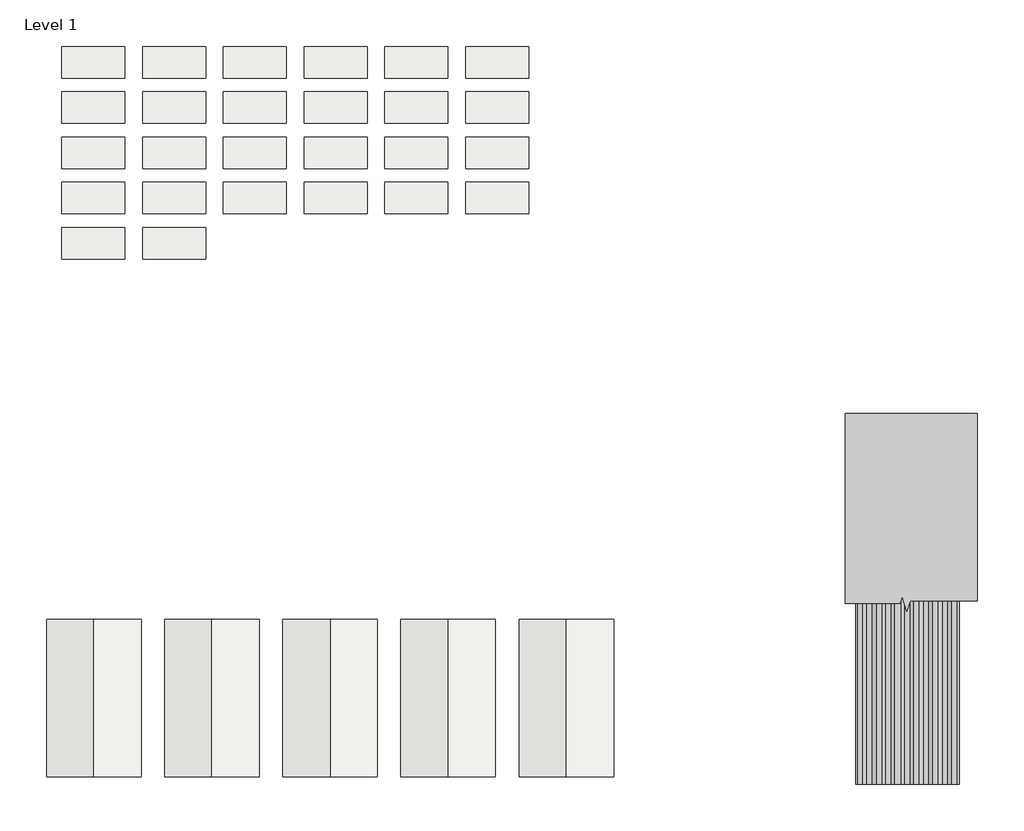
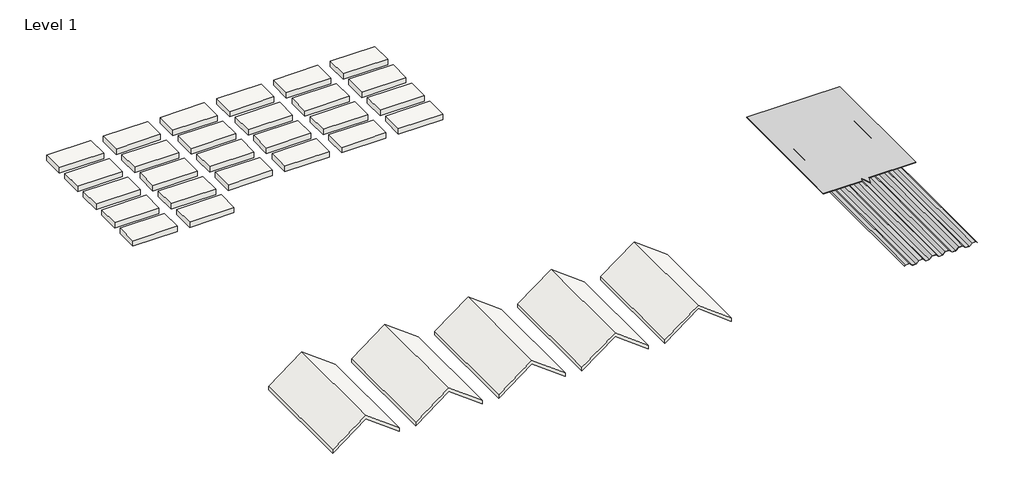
# One storey: 26 slabs, 5 roofs, 2 proxies.
"""IFC4 building model written with IfcOpenShell, lengths in millimetres."""

from ifc_helpers import new_model, si_unit, frame, origin, place, context, project, spatial, polyline, outline, extrude, transform, mapped, element, save
from components import proxy_5ac39d22, section_mask3_section_mask_eed57ca7

model = new_model("IFC4")

# Units and contexts
model_context = context("Model", 3, world=origin())
ifc_project = project(units=[si_unit("LENGTHUNIT", "METRE", prefix="MILLI")], contexts=[model_context])

# Site, building, storey
site = spatial("IfcSite", under=ifc_project)
building = spatial("IfcBuilding", under=site)
storey = spatial("IfcBuildingStorey", under=building, Name="Level 1", Elevation=0.0)

# Proxies
placement = place(None, origin())
proxy_shape = proxy_5ac39d22(model_context)
element("IfcBuildingElementProxy", 1, Name="HR-36_Panel_AEP_Span : 36\" HR-36 Panel - 18ga", ObjectType="HR-36_Panel_AEP_Span : 36\" HR-36 Panel - 18ga", at=placement, inside=storey, context=model_context, shape_type="MappedRepresentation", body=[
    mapped(proxy_shape, transform((3261.2071089, 3665.9725357, 0.0), x_axis=(1.0, 0.0, 0.0), y_axis=(0.0, 1.0, 0.0), z_axis=(0.0, 0.0, 1.0))),
])
section_mask3_section_mask_shape = section_mask3_section_mask_eed57ca7(model_context)
element("IfcBuildingElementProxy", 2, Name="Section Mask3 : Section Mask", ObjectType="Section Mask3 : Section Mask", at=placement, inside=storey, context=model_context, shape_type="MappedRepresentation", body=[
    mapped(section_mask3_section_mask_shape, transform((-4935.9331116, 1484.3755873, 0.0), x_axis=(1.0, 0.0, 0.0), y_axis=(0.0, 1.0, 0.0), z_axis=(0.0, 0.0, 1.0))),
])

# Roofs
element("IfcRoof", 3, ObjectType="36\" HR-36 Roofing - 18ga", at=placement, inside=storey, context=model_context, shape_type="SweptSolid", body=[
    extrude(outline(polyline([(47.625, -4151.1972798), (390.525, -4608.3972798), (47.625, -5065.5972798), (0.0, -5065.5972798), (342.9, -4608.3972798), (0.0, -4151.1972798), (47.625, -4151.1972798)])), frame((0.0, 433.0186306, 0.0), z_axis=(0.0, 1.0, 0.0), x_axis=(0.0, 0.0, 1.0)), (0.0, 0.0, 1.0), 1524.0),
])
element("IfcRoof", 4, ObjectType="36\" HR-36 Roofing - 20ga", at=placement, inside=storey, context=model_context, shape_type="SweptSolid", body=[
    extrude(outline(polyline([(47.625, -3008.1972798), (390.525, -3465.3972798), (47.625, -3922.5972798), (0.0, -3922.5972798), (342.9, -3465.3972798), (0.0, -3008.1972798), (47.625, -3008.1972798)])), frame((0.0, 433.0186306, 0.0), z_axis=(0.0, 1.0, 0.0), x_axis=(0.0, 0.0, 1.0)), (0.0, 0.0, 1.0), 1524.0),
])
element("IfcRoof", 5, ObjectType="36\" HR-36 Roofing - 22ga", at=placement, inside=storey, context=model_context, shape_type="SweptSolid", body=[
    extrude(outline(polyline([(47.625, -1865.1972798), (390.525, -2322.3972798), (47.625, -2779.5972798), (0.0, -2779.5972798), (342.9, -2322.3972798), (0.0, -1865.1972798), (47.625, -1865.1972798)])), frame((0.0, 433.0186306, 0.0), z_axis=(0.0, 1.0, 0.0), x_axis=(0.0, 0.0, 1.0)), (0.0, 0.0, 1.0), 1524.0),
])
element("IfcRoof", 6, ObjectType="36\" HR-36 Roofing - 24ga", at=placement, inside=storey, context=model_context, shape_type="SweptSolid", body=[
    extrude(outline(polyline([(47.625, -722.1972798), (390.525, -1179.3972798), (47.625, -1636.5972798), (0.0, -1636.5972798), (342.9, -1179.3972798), (0.0, -722.1972798), (47.625, -722.1972798)])), frame((0.0, 433.0186306, 0.0), z_axis=(0.0, 1.0, 0.0), x_axis=(0.0, 0.0, 1.0)), (0.0, 0.0, 1.0), 1524.0),
])
element("IfcRoof", 7, ObjectType="36\" HR-36 Roofing - 26ga", at=placement, inside=storey, context=model_context, shape_type="SweptSolid", body=[
    extrude(outline(polyline([(47.625, 420.8027202), (390.525, -36.3972798), (47.625, -493.5972798), (0.0, -493.5972798), (342.9, -36.3972798), (0.0, 420.8027202), (47.625, 420.8027202)])), frame((0.0, 433.0186306, 0.0), z_axis=(0.0, 1.0, 0.0), x_axis=(0.0, 0.0, 1.0)), (0.0, 0.0, 1.0), 1524.0),
])

# Slabs
element("IfcSlab", 8, ObjectType="AEP Span Material Sample", at=placement, inside=storey, context=model_context, shape_type="SweptSolid", body=[
    extrude(outline(polyline([(-4307.8660775, 7199.3976846), (-4917.4660775, 7199.3976846), (-4917.4660775, 7504.1976846), (-4307.8660775, 7504.1976846), (-4307.8660775, 7199.3976846)])), frame((0.0, 0.0, -79.375), z_axis=(0.0, 0.0, 1.0), x_axis=(1.0, 0.0, 0.0)), (0.0, 0.0, 1.0), 79.375),
])
element("IfcSlab", 9, ObjectType="AEP Span Material Sample", at=placement, inside=storey, context=model_context, shape_type="SweptSolid", body=[
    extrude(outline(polyline([(-3526.8160775, 7199.3976846), (-4136.4160775, 7199.3976846), (-4136.4160775, 7504.1976846), (-3526.8160775, 7504.1976846), (-3526.8160775, 7199.3976846)])), frame((0.0, 0.0, -79.375), z_axis=(0.0, 0.0, 1.0), x_axis=(1.0, 0.0, 0.0)), (0.0, 0.0, 1.0), 79.375),
])
element("IfcSlab", 10, ObjectType="AEP Span Material Sample", at=placement, inside=storey, context=model_context, shape_type="SweptSolid", body=[
    extrude(outline(polyline([(-2745.7660775, 7199.3976846), (-3355.3660775, 7199.3976846), (-3355.3660775, 7504.1976846), (-2745.7660775, 7504.1976846), (-2745.7660775, 7199.3976846)])), frame((0.0, 0.0, -79.375), z_axis=(0.0, 0.0, 1.0), x_axis=(1.0, 0.0, 0.0)), (0.0, 0.0, 1.0), 79.375),
])
element("IfcSlab", 11, ObjectType="AEP Span Material Sample", at=placement, inside=storey, context=model_context, shape_type="SweptSolid", body=[
    extrude(outline(polyline([(-1964.7160775, 7199.3976846), (-2574.3160775, 7199.3976846), (-2574.3160775, 7504.1976846), (-1964.7160775, 7504.1976846), (-1964.7160775, 7199.3976846)])), frame((0.0, 0.0, -79.375), z_axis=(0.0, 0.0, 1.0), x_axis=(1.0, 0.0, 0.0)), (0.0, 0.0, 1.0), 79.375),
])
element("IfcSlab", 12, ObjectType="AEP Span Material Sample", at=placement, inside=storey, context=model_context, shape_type="SweptSolid", body=[
    extrude(outline(polyline([(-1183.6660775, 7199.3976846), (-1793.2660775, 7199.3976846), (-1793.2660775, 7504.1976846), (-1183.6660775, 7504.1976846), (-1183.6660775, 7199.3976846)])), frame((0.0, 0.0, -79.375), z_axis=(0.0, 0.0, 1.0), x_axis=(1.0, 0.0, 0.0)), (0.0, 0.0, 1.0), 79.375),
])
element("IfcSlab", 13, ObjectType="AEP Span Material Sample", at=placement, inside=storey, context=model_context, shape_type="SweptSolid", body=[
    extrude(outline(polyline([(-402.6160775, 7199.3976846), (-1012.2160775, 7199.3976846), (-1012.2160775, 7504.1976846), (-402.6160775, 7504.1976846), (-402.6160775, 7199.3976846)])), frame((0.0, 0.0, -79.375), z_axis=(0.0, 0.0, 1.0), x_axis=(1.0, 0.0, 0.0)), (0.0, 0.0, 1.0), 79.375),
])
element("IfcSlab", 14, ObjectType="AEP Span Material Sample", at=placement, inside=storey, context=model_context, shape_type="SweptSolid", body=[
    extrude(outline(polyline([(-4307.8660775, 6761.2476846), (-4917.4660775, 6761.2476846), (-4917.4660775, 7066.0476846), (-4307.8660775, 7066.0476846), (-4307.8660775, 6761.2476846)])), frame((0.0, 0.0, -79.375), z_axis=(0.0, 0.0, 1.0), x_axis=(1.0, 0.0, 0.0)), (0.0, 0.0, 1.0), 79.375),
])
element("IfcSlab", 15, ObjectType="AEP Span Material Sample", at=placement, inside=storey, context=model_context, shape_type="SweptSolid", body=[
    extrude(outline(polyline([(-3526.8160775, 6761.2476846), (-4136.4160775, 6761.2476846), (-4136.4160775, 7066.0476846), (-3526.8160775, 7066.0476846), (-3526.8160775, 6761.2476846)])), frame((0.0, 0.0, -79.375), z_axis=(0.0, 0.0, 1.0), x_axis=(1.0, 0.0, 0.0)), (0.0, 0.0, 1.0), 79.375),
])
element("IfcSlab", 16, ObjectType="AEP Span Material Sample", at=placement, inside=storey, context=model_context, shape_type="SweptSolid", body=[
    extrude(outline(polyline([(-2745.7660775, 6761.2476846), (-3355.3660775, 6761.2476846), (-3355.3660775, 7066.0476846), (-2745.7660775, 7066.0476846), (-2745.7660775, 6761.2476846)])), frame((0.0, 0.0, -79.375), z_axis=(0.0, 0.0, 1.0), x_axis=(1.0, 0.0, 0.0)), (0.0, 0.0, 1.0), 79.375),
])
element("IfcSlab", 17, ObjectType="AEP Span Material Sample", at=placement, inside=storey, context=model_context, shape_type="SweptSolid", body=[
    extrude(outline(polyline([(-1964.7160775, 6761.2476846), (-2574.3160775, 6761.2476846), (-2574.3160775, 7066.0476846), (-1964.7160775, 7066.0476846), (-1964.7160775, 6761.2476846)])), frame((0.0, 0.0, -79.375), z_axis=(0.0, 0.0, 1.0), x_axis=(1.0, 0.0, 0.0)), (0.0, 0.0, 1.0), 79.375),
])
element("IfcSlab", 18, ObjectType="AEP Span Material Sample", at=placement, inside=storey, context=model_context, shape_type="SweptSolid", body=[
    extrude(outline(polyline([(-1183.6660775, 6761.2476846), (-1793.2660775, 6761.2476846), (-1793.2660775, 7066.0476846), (-1183.6660775, 7066.0476846), (-1183.6660775, 6761.2476846)])), frame((0.0, 0.0, -79.375), z_axis=(0.0, 0.0, 1.0), x_axis=(1.0, 0.0, 0.0)), (0.0, 0.0, 1.0), 79.375),
])
element("IfcSlab", 19, ObjectType="AEP Span Material Sample", at=placement, inside=storey, context=model_context, shape_type="SweptSolid", body=[
    extrude(outline(polyline([(-402.6160775, 6761.2476846), (-1012.2160775, 6761.2476846), (-1012.2160775, 7066.0476846), (-402.6160775, 7066.0476846), (-402.6160775, 6761.2476846)])), frame((0.0, 0.0, -79.375), z_axis=(0.0, 0.0, 1.0), x_axis=(1.0, 0.0, 0.0)), (0.0, 0.0, 1.0), 79.375),
])
element("IfcSlab", 20, ObjectType="AEP Span Material Sample", at=placement, inside=storey, context=model_context, shape_type="SweptSolid", body=[
    extrude(outline(polyline([(-4307.8660775, 6323.0976846), (-4917.4660775, 6323.0976846), (-4917.4660775, 6627.8976846), (-4307.8660775, 6627.8976846), (-4307.8660775, 6323.0976846)])), frame((0.0, 0.0, -79.375), z_axis=(0.0, 0.0, 1.0), x_axis=(1.0, 0.0, 0.0)), (0.0, 0.0, 1.0), 79.375),
])
element("IfcSlab", 21, ObjectType="AEP Span Material Sample", at=placement, inside=storey, context=model_context, shape_type="SweptSolid", body=[
    extrude(outline(polyline([(-3526.8160775, 6323.0976846), (-4136.4160775, 6323.0976846), (-4136.4160775, 6627.8976846), (-3526.8160775, 6627.8976846), (-3526.8160775, 6323.0976846)])), frame((0.0, 0.0, -79.375), z_axis=(0.0, 0.0, 1.0), x_axis=(1.0, 0.0, 0.0)), (0.0, 0.0, 1.0), 79.375),
])
element("IfcSlab", 22, ObjectType="AEP Span Material Sample", at=placement, inside=storey, context=model_context, shape_type="SweptSolid", body=[
    extrude(outline(polyline([(-2745.7660775, 6323.0976846), (-3355.3660775, 6323.0976846), (-3355.3660775, 6627.8976846), (-2745.7660775, 6627.8976846), (-2745.7660775, 6323.0976846)])), frame((0.0, 0.0, -79.375), z_axis=(0.0, 0.0, 1.0), x_axis=(1.0, 0.0, 0.0)), (0.0, 0.0, 1.0), 79.375),
])
element("IfcSlab", 23, ObjectType="AEP Span Material Sample", at=placement, inside=storey, context=model_context, shape_type="SweptSolid", body=[
    extrude(outline(polyline([(-1964.7160775, 6323.0976846), (-2574.3160775, 6323.0976846), (-2574.3160775, 6627.8976846), (-1964.7160775, 6627.8976846), (-1964.7160775, 6323.0976846)])), frame((0.0, 0.0, -79.375), z_axis=(0.0, 0.0, 1.0), x_axis=(1.0, 0.0, 0.0)), (0.0, 0.0, 1.0), 79.375),
])
element("IfcSlab", 24, ObjectType="AEP Span Material Sample", at=placement, inside=storey, context=model_context, shape_type="SweptSolid", body=[
    extrude(outline(polyline([(-1183.6660775, 6323.0976846), (-1793.2660775, 6323.0976846), (-1793.2660775, 6627.8976846), (-1183.6660775, 6627.8976846), (-1183.6660775, 6323.0976846)])), frame((0.0, 0.0, -79.375), z_axis=(0.0, 0.0, 1.0), x_axis=(1.0, 0.0, 0.0)), (0.0, 0.0, 1.0), 79.375),
])
element("IfcSlab", 25, ObjectType="AEP Span Material Sample", at=placement, inside=storey, context=model_context, shape_type="SweptSolid", body=[
    extrude(outline(polyline([(-402.6160775, 6323.0976846), (-1012.2160775, 6323.0976846), (-1012.2160775, 6627.8976846), (-402.6160775, 6627.8976846), (-402.6160775, 6323.0976846)])), frame((0.0, 0.0, -79.375), z_axis=(0.0, 0.0, 1.0), x_axis=(1.0, 0.0, 0.0)), (0.0, 0.0, 1.0), 79.375),
])
element("IfcSlab", 26, ObjectType="AEP Span Material Sample", at=placement, inside=storey, context=model_context, shape_type="SweptSolid", body=[
    extrude(outline(polyline([(-4307.8660775, 5884.9476846), (-4917.4660775, 5884.9476846), (-4917.4660775, 6189.7476846), (-4307.8660775, 6189.7476846), (-4307.8660775, 5884.9476846)])), frame((0.0, 0.0, -79.375), z_axis=(0.0, 0.0, 1.0), x_axis=(1.0, 0.0, 0.0)), (0.0, 0.0, 1.0), 79.375),
])
element("IfcSlab", 27, ObjectType="AEP Span Material Sample", at=placement, inside=storey, context=model_context, shape_type="SweptSolid", body=[
    extrude(outline(polyline([(-3526.8160775, 5884.9476846), (-4136.4160775, 5884.9476846), (-4136.4160775, 6189.7476846), (-3526.8160775, 6189.7476846), (-3526.8160775, 5884.9476846)])), frame((0.0, 0.0, -79.375), z_axis=(0.0, 0.0, 1.0), x_axis=(1.0, 0.0, 0.0)), (0.0, 0.0, 1.0), 79.375),
])
element("IfcSlab", 28, ObjectType="AEP Span Material Sample", at=placement, inside=storey, context=model_context, shape_type="SweptSolid", body=[
    extrude(outline(polyline([(-2745.7660775, 5884.9476846), (-3355.3660775, 5884.9476846), (-3355.3660775, 6189.7476846), (-2745.7660775, 6189.7476846), (-2745.7660775, 5884.9476846)])), frame((0.0, 0.0, -79.375), z_axis=(0.0, 0.0, 1.0), x_axis=(1.0, 0.0, 0.0)), (0.0, 0.0, 1.0), 79.375),
])
element("IfcSlab", 29, ObjectType="AEP Span Material Sample", at=placement, inside=storey, context=model_context, shape_type="SweptSolid", body=[
    extrude(outline(polyline([(-1964.7160775, 5884.9476846), (-2574.3160775, 5884.9476846), (-2574.3160775, 6189.7476846), (-1964.7160775, 6189.7476846), (-1964.7160775, 5884.9476846)])), frame((0.0, 0.0, -79.375), z_axis=(0.0, 0.0, 1.0), x_axis=(1.0, 0.0, 0.0)), (0.0, 0.0, 1.0), 79.375),
])
element("IfcSlab", 30, ObjectType="AEP Span Material Sample", at=placement, inside=storey, context=model_context, shape_type="SweptSolid", body=[
    extrude(outline(polyline([(-1183.6660775, 5884.9476846), (-1793.2660775, 5884.9476846), (-1793.2660775, 6189.7476846), (-1183.6660775, 6189.7476846), (-1183.6660775, 5884.9476846)])), frame((0.0, 0.0, -79.375), z_axis=(0.0, 0.0, 1.0), x_axis=(1.0, 0.0, 0.0)), (0.0, 0.0, 1.0), 79.375),
])
element("IfcSlab", 31, ObjectType="AEP Span Material Sample", at=placement, inside=storey, context=model_context, shape_type="SweptSolid", body=[
    extrude(outline(polyline([(-402.6160775, 5884.9476846), (-1012.2160775, 5884.9476846), (-1012.2160775, 6189.7476846), (-402.6160775, 6189.7476846), (-402.6160775, 5884.9476846)])), frame((0.0, 0.0, -79.375), z_axis=(0.0, 0.0, 1.0), x_axis=(1.0, 0.0, 0.0)), (0.0, 0.0, 1.0), 79.375),
])
element("IfcSlab", 32, ObjectType="AEP Span Material Sample", at=placement, inside=storey, context=model_context, shape_type="SweptSolid", body=[
    extrude(outline(polyline([(-4307.8660775, 5446.7976846), (-4917.4660775, 5446.7976846), (-4917.4660775, 5751.5976846), (-4307.8660775, 5751.5976846), (-4307.8660775, 5446.7976846)])), frame((0.0, 0.0, -79.375), z_axis=(0.0, 0.0, 1.0), x_axis=(1.0, 0.0, 0.0)), (0.0, 0.0, 1.0), 79.375),
])
element("IfcSlab", 33, ObjectType="AEP Span Material Sample", at=placement, inside=storey, context=model_context, shape_type="SweptSolid", body=[
    extrude(outline(polyline([(-3526.8160775, 5446.7976846), (-4136.4160775, 5446.7976846), (-4136.4160775, 5751.5976846), (-3526.8160775, 5751.5976846), (-3526.8160775, 5446.7976846)])), frame((0.0, 0.0, -79.375), z_axis=(0.0, 0.0, 1.0), x_axis=(1.0, 0.0, 0.0)), (0.0, 0.0, 1.0), 79.375),
])

save(model, "model.ifc")
